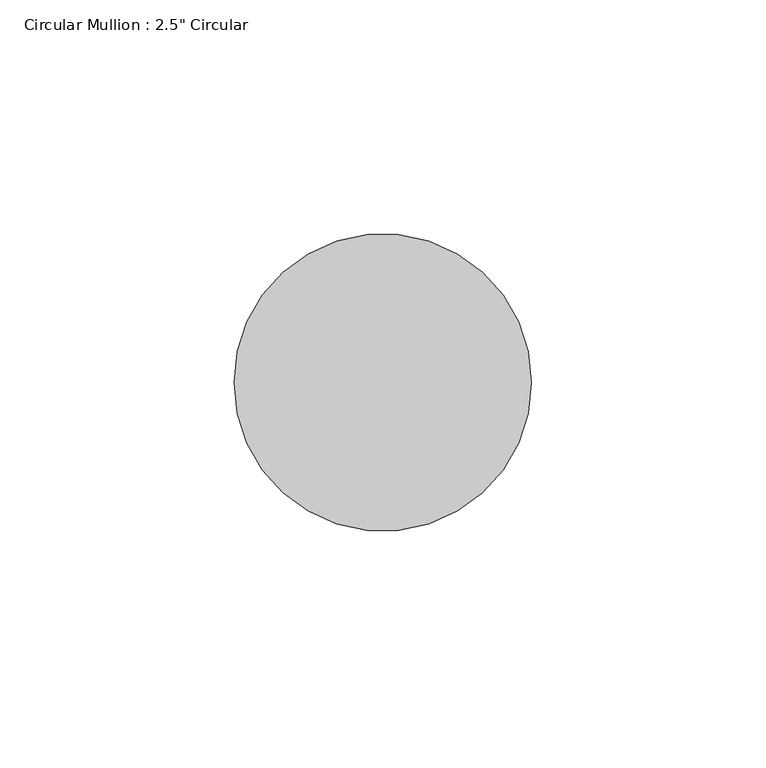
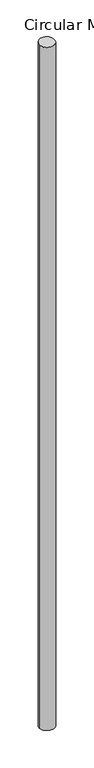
"""IFC4 building model written with IfcOpenShell, lengths in millimetres: member geometry."""

from ifc_helpers import new_model, si_unit, frame, origin, origin_with_axes, place, context, project, spatial, ellipse_curve, source, transform, mapped, element, save
from ifc_brep_helpers import plane_surface, cylinder_surface, advanced_brep


def member_02ef2633(model_context):
    return source(origin(), model_context, "Body", "AdvancedBrep", [
        advanced_brep(
        [(-31.75, 0.0, -0.4890414), (31.75, 0.0, 0.4890414), (31.75, 0.0, -3037.4788051), (-31.75, 0.0, -3036.4372705)],
        [
            (0, 1, ellipse_curve(frame((0.0, 0.0, 0.0), z_axis=(0.015376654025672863, 0.05626479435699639, -0.9982974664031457), x_axis=(0.2631745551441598, 0.962983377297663, 0.058328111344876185)), 31.8041476, 31.75)),
            (1, 2),
            (2, 3, ellipse_curve(frame((0.0, 0.0, -3036.9580378), z_axis=(0.016372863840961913, 0.05741192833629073, 0.9982163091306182), x_axis=(-0.273758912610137, -0.959943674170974, 0.05970092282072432)), 31.8067334, 31.75)),
            (3, 0),
            (1, 0, ellipse_curve(frame((0.0, 0.0, 0.0), z_axis=(0.015376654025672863, 0.05626479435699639, -0.9982974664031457), x_axis=(0.2631745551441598, 0.962983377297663, 0.058328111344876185)), 31.8041476, 31.75)),
            (3, 2, ellipse_curve(frame((0.0, 0.0, -3036.9580378), z_axis=(0.016372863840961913, 0.05741192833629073, 0.9982163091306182), x_axis=(-0.273758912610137, -0.959943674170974, 0.05970092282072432)), 31.8067334, 31.75)),
        ],
        [
            cylinder_surface(origin_with_axes(), 31.75),
            plane_surface(frame((294.0179088, -80.3524071, 0.0), z_axis=(-0.015376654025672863, -0.05626479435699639, 0.9982974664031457), x_axis=(-0.26317455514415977, -0.9629833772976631, -0.058328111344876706))),
            plane_surface(frame((293.113656, -83.5908167, -3036.9580378), z_axis=(-0.016372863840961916, -0.057411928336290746, -0.9982163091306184), x_axis=(-0.273758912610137, -0.9599436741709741, 0.059700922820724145))),
        ],
        [
            (0, [[1, 2, 3, 4]]),
            (0, [[5, -4, 6, -2]]),
            (1, [[-1, -5]]),
            (2, [[-6, -3]]),
        ],
    ),
    ])


if __name__ == "__main__":
    model = new_model("IFC4")
    model_context = context("Model", 3, world=origin())
    ifc_project = project(units=[si_unit("LENGTHUNIT", "METRE", prefix="MILLI")], contexts=[model_context])
    site = spatial("IfcSite", under=ifc_project)
    building = spatial("IfcBuilding", under=site)
    placement = place(None, origin())
    member_shape = member_02ef2633(model_context)
    element("IfcMember", 1, ObjectType="Circular Mullion : 2.5\" Circular", at=placement, inside=building, context=model_context, shape_type="MappedRepresentation", body=[
        mapped(member_shape, transform((0.0, 0.0, 0.0), x_axis=(1.0, 0.0, 0.0), y_axis=(0.0, 1.0, 0.0), z_axis=(0.0, 0.0, 1.0))),
    ])
    save(model, "model.ifc")
